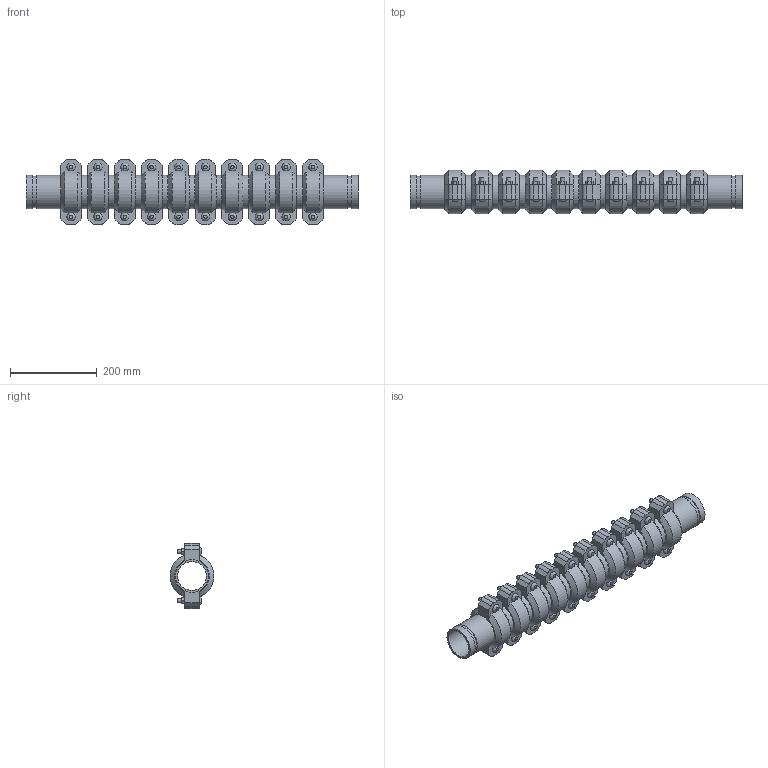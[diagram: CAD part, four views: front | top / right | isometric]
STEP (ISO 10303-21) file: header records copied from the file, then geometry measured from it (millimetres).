
FILE_DESCRIPTION(/* description */ ('VIC EXPANSION JOINT 10 COUPLINGS EXPANDED STYLE 155 (OGS)','CAx-IF Rec.Pracs.---Representation and Presentation of Product Manufacturing Information (PMI)---4.0---2014-10-13'),/* implementation_level */ '2;1');
FILE_NAME(/* name */ 'C:\Users\kkamble\AppData\Roaming\Autodesk\ApplicationPlugins\Victaulic.Temp\A992\Victaulic_IPS_Expansion Joint_Expanded_10 Couplings_Style 155 (OGS)_02.5 (76.1) (65).stp',/* time_stamp */ '2021-06-26T23:49:38+02:00',/* author */ ('kkamble'),/* organization */ ('Victaulic'),/* preprocessor_version */ 'ST-DEVELOPER v17.2',/* originating_system */ 'Autodesk Inventor 2019',/* authorisation */ '');
FILE_SCHEMA (('AP242_MANAGED_MODEL_BASED_3D_ENGINEERING_MIM_LF { 1 0 10303 442 1 1 4 }'));
Length unit declared in the file: inch
Products named in the file (4): 155-02.5 (76.1); Nipple-02.5 (76.1); Nipple-02.5 (76.1)_1; 075-02.5 (76.1)
Assembly tree (21 placements, depth 2):
  155-02.5 (76.1)
    Nipple-02.5 (76.1)  x2
    Nipple-02.5 (76.1)_1  x9
    075-02.5 (76.1)  x10
Bounding box: 765.3 x 101.25 x 149.86 mm (x, y, z)
Volume: 2933819.1 mm3; surface area: 831933.6 mm2
Topology: 21 solids, 41 shells, 702 faces, 1700 edges, 1184 vertices
Faces by surface type: plane 426, cylinder 216, cone 40, bspline 20
Full cylindrical faces by diameter (mm): 9.525 x40, 11.43 x20, 66.65 x11, 69.85 x10, 72.263 x22, 76.2 x53
Entity records: 2931 total; most frequent: CARTESIAN_POINT 537, DIRECTION 487, ORIENTED_EDGE 394, EDGE_CURVE 197, AXIS2_PLACEMENT_3D 196, VERTEX_POINT 140, EDGE_LOOP 105, LINE 95
